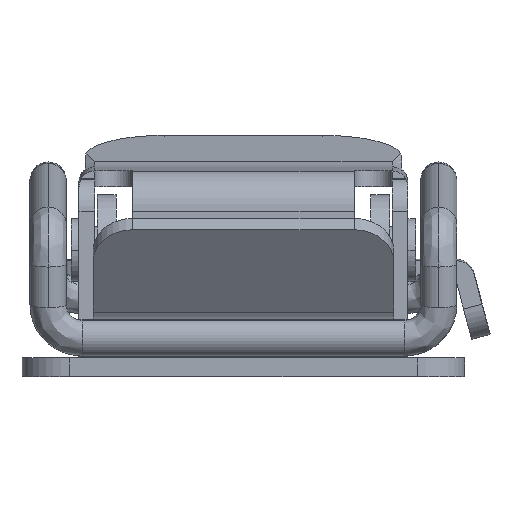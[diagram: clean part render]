
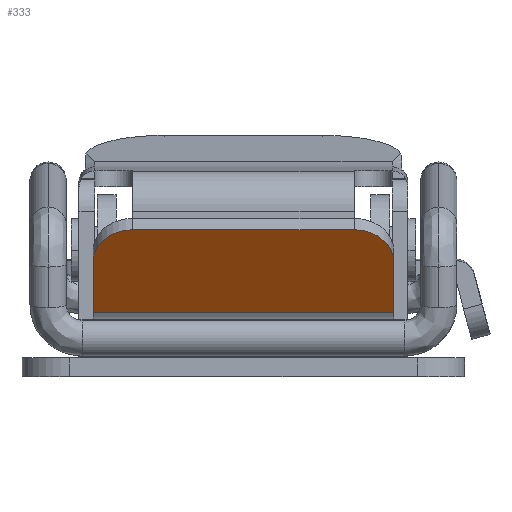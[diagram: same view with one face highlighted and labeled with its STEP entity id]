
A CAD part, left-side view. The second image highlights one B-rep face of the part: STEP entity #333.
In plain terms, the highlighted planar face has unit normal (-0.804, 0, -0.595).
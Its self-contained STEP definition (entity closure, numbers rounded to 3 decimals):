
#286 = CARTESIAN_POINT ( 'NONE',  ( 8., -9.5, 9.286 ) ) ;
#314 = DIRECTION ( 'NONE',  ( 0.595, 0., -0.804 ) ) ;
#317 = PLANE ( 'NONE',  #2916 ) ;
#318 = DIRECTION ( 'NONE',  ( 0.804, 0., 0.595 ) ) ;
#333 = ADVANCED_FACE ( 'NONE', ( #3316 ), #317, .F. ) ;
#372 = ORIENTED_EDGE ( 'NONE', *, *, #1253, .F. ) ;
#379 = ORIENTED_EDGE ( 'NONE', *, *, #1249, .F. ) ;
#385 = ORIENTED_EDGE ( 'NONE', *, *, #1264, .F. ) ;
#388 = ORIENTED_EDGE ( 'NONE', *, *, #1256, .F. ) ;
#393 = ORIENTED_EDGE ( 'NONE', *, *, #1265, .T. ) ;
#398 = ORIENTED_EDGE ( 'NONE', *, *, #1245, .F. ) ;
#1245 = EDGE_CURVE ( 'NONE', #2734, #2709, #3576, .T. ) ;
#1249 = EDGE_CURVE ( 'NONE', #2753, #2734, #4254, .T. ) ;
#1253 = EDGE_CURVE ( 'NONE', #2709, #2747, #4259, .T. ) ;
#1256 = EDGE_CURVE ( 'NONE', #2743, #2737, #4264, .T. ) ;
#1264 = EDGE_CURVE ( 'NONE', #2737, #2753, #4276, .T. ) ;
#1265 = EDGE_CURVE ( 'NONE', #2743, #2747, #4277, .T. ) ;
#2656 = EDGE_LOOP ( 'NONE', ( #372, #398, #379, #385, #388, #393 ) ) ;
#2709 = VERTEX_POINT ( 'NONE', #7473 ) ;
#2734 = VERTEX_POINT ( 'NONE', #7498 ) ;
#2737 = VERTEX_POINT ( 'NONE', #7501 ) ;
#2743 = VERTEX_POINT ( 'NONE', #7507 ) ;
#2747 = VERTEX_POINT ( 'NONE', #7511 ) ;
#2753 = VERTEX_POINT ( 'NONE', #7517 ) ;
#2916 = AXIS2_PLACEMENT_3D ( 'NONE', #286, #318, #314 ) ;
#2984 = AXIS2_PLACEMENT_3D ( 'NONE', #4189, #4190, #4191 ) ;
#2986 = AXIS2_PLACEMENT_3D ( 'NONE', #4198, #4199, #4200 ) ;
#3316 = FACE_OUTER_BOUND ( 'NONE', #2656, .T. ) ;
#3576 = LINE ( 'NONE', #4174, #3580 ) ;
#3580 = VECTOR ( 'NONE', #4180, 1000. ) ;
#4174 = CARTESIAN_POINT ( 'NONE',  ( 8., -9.5, 9.286 ) ) ;
#4180 = DIRECTION ( 'NONE',  ( 0., -1., 0. ) ) ;
#4189 = CARTESIAN_POINT ( 'NONE',  ( 9.487, 7., 7.277 ) ) ;
#4190 = DIRECTION ( 'NONE',  ( 0.804, 0., 0.595 ) ) ;
#4191 = DIRECTION ( 'NONE',  ( 0.595, 0., -0.804 ) ) ;
#4197 = DIRECTION ( 'NONE',  ( 0., 1., 0. ) ) ;
#4198 = CARTESIAN_POINT ( 'NONE',  ( 9.487, -7., 7.277 ) ) ;
#4199 = DIRECTION ( 'NONE',  ( 0.804, 0., 0.595 ) ) ;
#4200 = DIRECTION ( 'NONE',  ( -0.595, 0., 0.804 ) ) ;
#4201 = CARTESIAN_POINT ( 'NONE',  ( 11.849, -9.5, 4.085 ) ) ;
#4218 = CARTESIAN_POINT ( 'NONE',  ( 11.849, 9.5, 4.085 ) ) ;
#4219 = DIRECTION ( 'NONE',  ( -0.595, 0., 0.804 ) ) ;
#4228 = CARTESIAN_POINT ( 'NONE',  ( 11.849, -9.5, 4.085 ) ) ;
#4230 = DIRECTION ( 'NONE',  ( -0.595, 0., 0.804 ) ) ;
#4254 = CIRCLE ( 'NONE', #2984, 2.5 ) ;
#4259 = CIRCLE ( 'NONE', #2986, 2.5 ) ;
#4264 = LINE ( 'NONE', #4201, #4267 ) ;
#4267 = VECTOR ( 'NONE', #4197, 1000. ) ;
#4276 = LINE ( 'NONE', #4218, #4278 ) ;
#4277 = LINE ( 'NONE', #4228, #4280 ) ;
#4278 = VECTOR ( 'NONE', #4219, 1000. ) ;
#4280 = VECTOR ( 'NONE', #4230, 1000. ) ;
#7473 = CARTESIAN_POINT ( 'NONE',  ( 8., -7., 9.286 ) ) ;
#7498 = CARTESIAN_POINT ( 'NONE',  ( 8., 7., 9.286 ) ) ;
#7501 = CARTESIAN_POINT ( 'NONE',  ( 11.849, 9.5, 4.085 ) ) ;
#7507 = CARTESIAN_POINT ( 'NONE',  ( 11.849, -9.5, 4.085 ) ) ;
#7511 = CARTESIAN_POINT ( 'NONE',  ( 9.487, -9.5, 7.277 ) ) ;
#7517 = CARTESIAN_POINT ( 'NONE',  ( 9.487, 9.5, 7.277 ) ) ;
